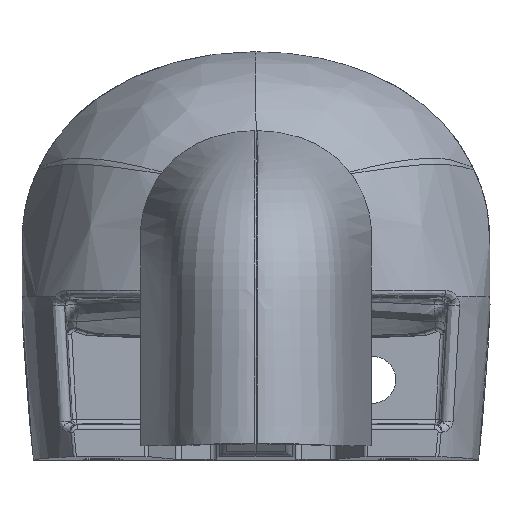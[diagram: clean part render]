
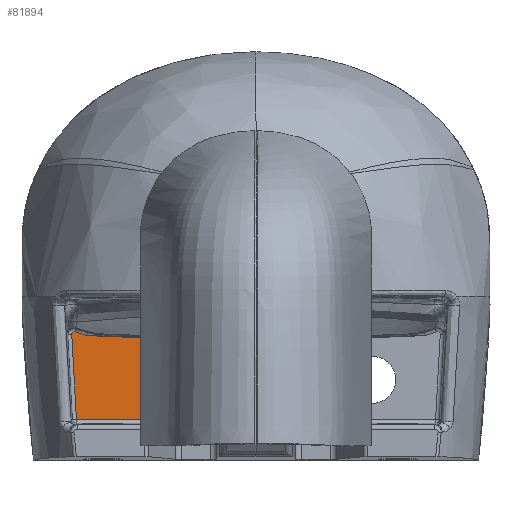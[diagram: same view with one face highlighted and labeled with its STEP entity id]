
A CAD part, front view. The second image highlights one B-rep face of the part: STEP entity #81894.
In plain terms, the highlighted planar face has unit normal (0, -1, 0).
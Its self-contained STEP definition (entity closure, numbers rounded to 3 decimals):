
#1725 = VERTEX_POINT ( 'NONE', #128481 ) ;
#2227 = CARTESIAN_POINT ( 'NONE',  ( -130.639, -11., -17.814 ) ) ;
#2728 = CARTESIAN_POINT ( 'NONE',  ( -45.792, -11., -24.291 ) ) ;
#2923 = DIRECTION ( 'NONE',  ( 0., 0., -1. ) ) ;
#2939 = CARTESIAN_POINT ( 'NONE',  ( -133.063, -11., -19.64 ) ) ;
#3213 = CARTESIAN_POINT ( 'NONE',  ( -129.432, -11., -86.008 ) ) ;
#3474 = CARTESIAN_POINT ( 'NONE',  ( -28.528, -11., -26.933 ) ) ;
#3561 = VERTEX_POINT ( 'NONE', #51847 ) ;
#5458 = B_SPLINE_CURVE_WITH_KNOTS ( 'NONE', 3,
 ( #133890, #69029, #2728, #47188, #25309, #127948, #6986, #26726, #72572, #93010, #39088, #5563, #6268, #49304, #51444, #39797, #17935, #62369, #60230, #137448 ),
 .UNSPECIFIED., .F., .F.,
 ( 4, 2, 2, 2, 2, 2, 2, 2, 2, 4 ),
 ( 0., 0.023, 0.046, 0.057, 0.069, 0.08, 0.083, 0.085, 0.086, 0.092 ),
 .UNSPECIFIED. ) ;
#5563 = CARTESIAN_POINT ( 'NONE',  ( -111.662, -11., -22.41 ) ) ;
#6268 = CARTESIAN_POINT ( 'NONE',  ( -112.613, -11., -22.33 ) ) ;
#6986 = CARTESIAN_POINT ( 'NONE',  ( -84.001, -11., -23.706 ) ) ;
#7401 = EDGE_CURVE ( 'NONE', #43087, #1725, #93494, .T. ) ;
#8753 = ORIENTED_EDGE ( 'NONE', *, *, #93568, .T. ) ;
#9378 = B_SPLINE_CURVE_WITH_KNOTS ( 'NONE', 3,
 ( #126031, #112251, #2227, #69948, #24814, #14584, #102744, #46682, #12455, #56891, #13882, #59021, #135525, #2939, #92518, #136954 ),
 .UNSPECIFIED., .F., .F.,
 ( 4, 2, 2, 2, 2, 2, 2, 4 ),
 ( 0., 0.001, 0.001, 0.002, 0.002, 0.003, 0.004, 0.004 ),
 .UNSPECIFIED. ) ;
#12455 = CARTESIAN_POINT ( 'NONE',  ( -132.127, -11., -18.067 ) ) ;
#13135 = CARTESIAN_POINT ( 'NONE',  ( -29.981, -11., -24.44 ) ) ;
#13815 = VERTEX_POINT ( 'NONE', #85955 ) ;
#13882 = CARTESIAN_POINT ( 'NONE',  ( -132.748, -11., -18.665 ) ) ;
#14584 = CARTESIAN_POINT ( 'NONE',  ( -131.492, -11., -17.803 ) ) ;
#17363 = VERTEX_POINT ( 'NONE', #136854 ) ;
#17935 = CARTESIAN_POINT ( 'NONE',  ( -115.934, -11., -21.982 ) ) ;
#24060 = CARTESIAN_POINT ( 'NONE',  ( -29.622, -11., -24.594 ) ) ;
#24814 = CARTESIAN_POINT ( 'NONE',  ( -131.153, -11., -17.761 ) ) ;
#25309 = CARTESIAN_POINT ( 'NONE',  ( -68.719, -11., -24.029 ) ) ;
#26726 = CARTESIAN_POINT ( 'NONE',  ( -91.641, -11., -23.48 ) ) ;
#27648 = EDGE_CURVE ( 'NONE', #1725, #13815, #31848, .T. ) ;
#29292 = CARTESIAN_POINT ( 'NONE',  ( -130.316, -11., -17.932 ) ) ;
#31848 = LINE ( 'NONE', #65352, #33844 ) ;
#33844 = VECTOR ( 'NONE', #76276, 1000. ) ;
#34267 = CARTESIAN_POINT ( 'NONE',  ( -29.01, -11., -25.078 ) ) ;
#35725 = PLANE ( 'NONE',  #82588 ) ;
#36982 = DIRECTION ( 'NONE',  ( 0., 0., 1. ) ) ;
#39088 = CARTESIAN_POINT ( 'NONE',  ( -106.906, -11., -22.783 ) ) ;
#39797 = CARTESIAN_POINT ( 'NONE',  ( -115.461, -11., -22.043 ) ) ;
#40222 = CARTESIAN_POINT ( 'NONE',  ( -127.641, -11., -19.113 ) ) ;
#40783 = EDGE_CURVE ( 'NONE', #13815, #40906, #116335, .T. ) ;
#40906 = VERTEX_POINT ( 'NONE', #142362 ) ;
#43087 = VERTEX_POINT ( 'NONE', #87544 ) ;
#45066 = EDGE_LOOP ( 'NONE', ( #54465, #55180, #8753, #136942, #73594, #79292, #134215 ) ) ;
#45934 = CARTESIAN_POINT ( 'NONE',  ( -28.528, -11., -26.272 ) ) ;
#46682 = CARTESIAN_POINT ( 'NONE',  ( -131.977, -11., -17.979 ) ) ;
#47188 = CARTESIAN_POINT ( 'NONE',  ( -61.077, -11., -24.132 ) ) ;
#47361 = CARTESIAN_POINT ( 'NONE',  ( -29.291, -11., -24.807 ) ) ;
#48093 = CARTESIAN_POINT ( 'NONE',  ( 102.552, -11., 135.047 ) ) ;
#49304 = CARTESIAN_POINT ( 'NONE',  ( -114.038, -11., -22.199 ) ) ;
#51444 = CARTESIAN_POINT ( 'NONE',  ( -114.513, -11., -22.152 ) ) ;
#51847 = CARTESIAN_POINT ( 'NONE',  ( -130.316, -11., -17.932 ) ) ;
#54465 = ORIENTED_EDGE ( 'NONE', *, *, #78299, .T. ) ;
#55180 = ORIENTED_EDGE ( 'NONE', *, *, #79932, .T. ) ;
#55777 = VERTEX_POINT ( 'NONE', #127029 ) ;
#56891 = CARTESIAN_POINT ( 'NONE',  ( -132.534, -11., -18.384 ) ) ;
#57567 = CARTESIAN_POINT ( 'NONE',  ( -30.243, -11., -24.385 ) ) ;
#58274 = CARTESIAN_POINT ( 'NONE',  ( -28.785, -11., -25.401 ) ) ;
#59021 = CARTESIAN_POINT ( 'NONE',  ( -132.954, -11., -19.137 ) ) ;
#60230 = CARTESIAN_POINT ( 'NONE',  ( -120.181, -11., -21.272 ) ) ;
#62369 = CARTESIAN_POINT ( 'NONE',  ( -118.299, -11., -21.645 ) ) ;
#65352 = CARTESIAN_POINT ( 'NONE',  ( -25.631, -11., -83.222 ) ) ;
#68672 = VECTOR ( 'NONE', #36982, 1000. ) ;
#68957 = EDGE_CURVE ( 'NONE', #3561, #43087, #9378, .T. ) ;
#69029 = CARTESIAN_POINT ( 'NONE',  ( -38.15, -11., -24.345 ) ) ;
#69225 = DIRECTION ( 'NONE',  ( 0., -1., 0. ) ) ;
#69948 = CARTESIAN_POINT ( 'NONE',  ( -130.978, -11., -17.763 ) ) ;
#72572 = CARTESIAN_POINT ( 'NONE',  ( -95.461, -11., -23.345 ) ) ;
#73594 = ORIENTED_EDGE ( 'NONE', *, *, #7401, .T. ) ;
#76276 = DIRECTION ( 'NONE',  ( 1., 0., 0. ) ) ;
#78299 = EDGE_CURVE ( 'NONE', #40906, #55777, #111560, .T. ) ;
#79292 = ORIENTED_EDGE ( 'NONE', *, *, #27648, .T. ) ;
#79932 = EDGE_CURVE ( 'NONE', #55777, #17363, #5458, .T. ) ;
#81894 = ADVANCED_FACE ( 'NONE', ( #102017 ), #35725, .T. ) ;
#82588 = AXIS2_PLACEMENT_3D ( 'NONE', #48093, #69225, #2923 ) ;
#85955 = CARTESIAN_POINT ( 'NONE',  ( -28.528, -11., -83.222 ) ) ;
#87544 = CARTESIAN_POINT ( 'NONE',  ( -133.064, -11., -19.986 ) ) ;
#89623 = CARTESIAN_POINT ( 'NONE',  ( -28.59, -11., -25.887 ) ) ;
#90345 = CARTESIAN_POINT ( 'NONE',  ( -28.627, -11., -25.76 ) ) ;
#92518 = CARTESIAN_POINT ( 'NONE',  ( -133.074, -11., -19.813 ) ) ;
#93010 = CARTESIAN_POINT ( 'NONE',  ( -103.093, -11., -22.996 ) ) ;
#93494 = LINE ( 'NONE', #3213, #142908 ) ;
#93568 = EDGE_CURVE ( 'NONE', #17363, #3561, #140376, .T. ) ;
#101278 = CARTESIAN_POINT ( 'NONE',  ( -28.528, -11., -26.404 ) ) ;
#102017 = FACE_OUTER_BOUND ( 'NONE', #45066, .T. ) ;
#102704 = CARTESIAN_POINT ( 'NONE',  ( -30.507, -11., -24.384 ) ) ;
#102744 = CARTESIAN_POINT ( 'NONE',  ( -131.661, -11., -17.848 ) ) ;
#111560 = B_SPLINE_CURVE_WITH_KNOTS ( 'NONE', 3,
 ( #101278, #45934, #123850, #89623, #90345, #134061, #58274, #113640, #34267, #135483, #47361, #134777, #24060, #13135, #57567, #102704 ),
 .UNSPECIFIED., .F., .F.,
 ( 4, 2, 2, 2, 2, 2, 2, 4 ),
 ( 0., 0., 0.001, 0.001, 0.002, 0.002, 0.002, 0.003 ),
 .UNSPECIFIED. ) ;
#112251 = CARTESIAN_POINT ( 'NONE',  ( -130.475, -11., -17.862 ) ) ;
#113640 = CARTESIAN_POINT ( 'NONE',  ( -28.927, -11., -25.182 ) ) ;
#116335 = LINE ( 'NONE', #3474, #68672 ) ;
#123850 = CARTESIAN_POINT ( 'NONE',  ( -28.541, -11., -26.142 ) ) ;
#124877 = DIRECTION ( 'NONE',  ( 0.055, 0., -0.998 ) ) ;
#126031 = CARTESIAN_POINT ( 'NONE',  ( -130.316, -11., -17.932 ) ) ;
#126943 = CARTESIAN_POINT ( 'NONE',  ( -122.054, -11., -20.792 ) ) ;
#127029 = CARTESIAN_POINT ( 'NONE',  ( -30.507, -11., -24.384 ) ) ;
#127948 = CARTESIAN_POINT ( 'NONE',  ( -80.18, -11., -23.797 ) ) ;
#128481 = CARTESIAN_POINT ( 'NONE',  ( -129.585, -11., -83.222 ) ) ;
#133890 = CARTESIAN_POINT ( 'NONE',  ( -30.507, -11., -24.384 ) ) ;
#134061 = CARTESIAN_POINT ( 'NONE',  ( -28.725, -11., -25.517 ) ) ;
#134215 = ORIENTED_EDGE ( 'NONE', *, *, #40783, .T. ) ;
#134777 = CARTESIAN_POINT ( 'NONE',  ( -29.506, -11., -24.658 ) ) ;
#135483 = CARTESIAN_POINT ( 'NONE',  ( -29.191, -11., -24.891 ) ) ;
#135525 = CARTESIAN_POINT ( 'NONE',  ( -133.004, -11., -19.303 ) ) ;
#136854 = CARTESIAN_POINT ( 'NONE',  ( -122.054, -11., -20.792 ) ) ;
#136942 = ORIENTED_EDGE ( 'NONE', *, *, #68957, .T. ) ;
#136954 = CARTESIAN_POINT ( 'NONE',  ( -133.064, -11., -19.986 ) ) ;
#137448 = CARTESIAN_POINT ( 'NONE',  ( -122.054, -11., -20.792 ) ) ;
#140007 = CARTESIAN_POINT ( 'NONE',  ( -124.887, -11., -20.067 ) ) ;
#140376 = B_SPLINE_CURVE_WITH_KNOTS ( 'NONE', 3,
 ( #126943, #140007, #40222, #29292 ),
 .UNSPECIFIED., .F., .F.,
 ( 4, 4 ),
 ( 0., 0.009 ),
 .UNSPECIFIED. ) ;
#142362 = CARTESIAN_POINT ( 'NONE',  ( -28.528, -11., -26.404 ) ) ;
#142908 = VECTOR ( 'NONE', #124877, 1000. ) ;
